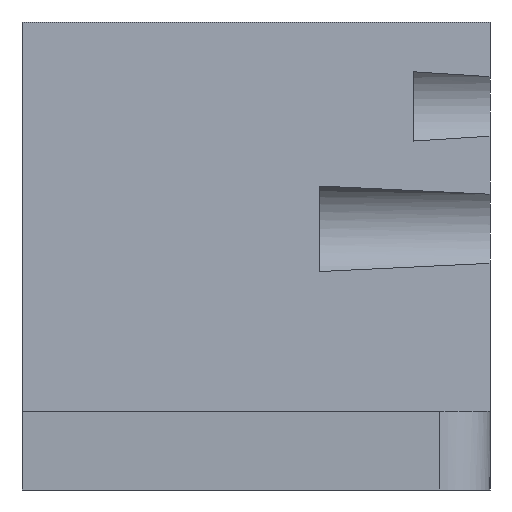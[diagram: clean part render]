
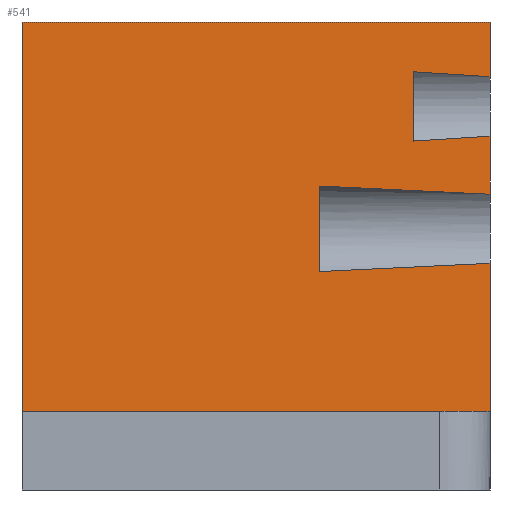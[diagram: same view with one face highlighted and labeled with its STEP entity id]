
A CAD part, front view. The second image highlights one B-rep face of the part: STEP entity #541.
In plain terms, the highlighted planar face has unit normal (0.057, -0.998, 0).
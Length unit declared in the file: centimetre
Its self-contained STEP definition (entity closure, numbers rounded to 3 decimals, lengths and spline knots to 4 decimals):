
#28 = EDGE_CURVE ( 'NONE', #308, #1092, #604, .T. ) ;
#34 = EDGE_CURVE ( 'NONE', #401, #933, #79, .T. ) ;
#79 = LINE ( 'NONE', #93, #555 ) ;
#93 = CARTESIAN_POINT ( 'NONE',  ( 1000., 276.6936, 1000. ) ) ;
#98 = ORIENTED_EDGE ( 'NONE', *, *, #907, .F. ) ;
#101 = CARTESIAN_POINT ( 'NONE',  ( 1000., 276.6936, 755.9561 ) ) ;
#109 = EDGE_CURVE ( 'NONE', #383, #900, #618, .T. ) ;
#118 = LINE ( 'NONE', #878, #271 ) ;
#120 = EDGE_CURVE ( 'NONE', #383, #1080, #118, .T. ) ;
#122 = DIRECTION ( 'NONE',  ( 0., 0., 1. ) ) ;
#140 = EDGE_CURVE ( 'NONE', #308, #901, #442, .T. ) ;
#166 =( BOUNDED_CURVE ( )  B_SPLINE_CURVE ( 3, ( #1023, #259, #940, #605 ),
 .UNSPECIFIED., .F., .T. ) 
 B_SPLINE_CURVE_WITH_KNOTS ( ( 4, 4 ),
 ( 0.6637, 0.7985 ),
 .UNSPECIFIED. ) 
 CURVE ( )  GEOMETRIC_REPRESENTATION_ITEM ( )  RATIONAL_B_SPLINE_CURVE ( ( 1., 0.998, 0.998, 1. ) ) 
 REPRESENTATION_ITEM ( '' )  );
#169 = DIRECTION ( 'NONE',  ( 0., 0., 1. ) ) ;
#176 = CARTESIAN_POINT ( 'NONE',  ( 1000., 276.6936, 883.2174 ) ) ;
#191 = DIRECTION ( 'NONE',  ( 0., 0., -1. ) ) ;
#202 = DIRECTION ( 'NONE',  ( -0.998, -0.057, 0. ) ) ;
#231 = VECTOR ( 'NONE', #202, 100. ) ;
#234 = CARTESIAN_POINT ( 'NONE',  ( 634.9686, 255.9766, 649.5723 ) ) ;
#236 = EDGE_CURVE ( 'NONE', #955, #978, #590, .T. ) ;
#241 = CARTESIAN_POINT ( 'NONE',  ( 836.3203, 267.4042, 893.5742 ) ) ;
#250 = CARTESIAN_POINT ( 'NONE',  ( 634.9686, 255.9766, 466.7921 ) ) ;
#259 = CARTESIAN_POINT ( 'NONE',  ( 949.5843, 273.8323, 752.2976 ) ) ;
#271 = VECTOR ( 'NONE', #371, 100. ) ;
#278 = ORIENTED_EDGE ( 'NONE', *, *, #717, .T. ) ;
#308 = VERTEX_POINT ( 'NONE', #241 ) ;
#343 = CARTESIAN_POINT ( 'NONE',  ( 0., 219.9397, 168.4904 ) ) ;
#345 = EDGE_CURVE ( 'NONE', #900, #933, #583, .T. ) ;
#347 = CARTESIAN_POINT ( 'NONE',  ( 1000., 276.6936, 632.0255 ) ) ;
#371 = DIRECTION ( 'NONE',  ( 0., 0., 1. ) ) ;
#376 = VECTOR ( 'NONE', #122, 100. ) ;
#383 = VERTEX_POINT ( 'NONE', #932 ) ;
#401 = VERTEX_POINT ( 'NONE', #495 ) ;
#414 = VERTEX_POINT ( 'NONE', #840 ) ;
#422 = DIRECTION ( 'NONE',  ( -0.998, -0.057, 0. ) ) ;
#441 = PLANE ( 'NONE',  #910 ) ;
#442 =( BOUNDED_CURVE ( )  B_SPLINE_CURVE ( 3, ( #642, #1061, #547, #893 ),
 .UNSPECIFIED., .F., .T. ) 
 B_SPLINE_CURVE_WITH_KNOTS ( ( 4, 4 ),
 ( 5.4847, 5.6195 ),
 .UNSPECIFIED. ) 
 CURVE ( )  GEOMETRIC_REPRESENTATION_ITEM ( )  RATIONAL_B_SPLINE_CURVE ( ( 1., 0.998, 0.998, 1. ) ) 
 REPRESENTATION_ITEM ( '' )  );
#464 = VECTOR ( 'NONE', #191, 100. ) ;
#467 = LINE ( 'NONE', #617, #376 ) ;
#484 = ORIENTED_EDGE ( 'NONE', *, *, #1102, .T. ) ;
#489 = ORIENTED_EDGE ( 'NONE', *, *, #140, .T. ) ;
#495 = CARTESIAN_POINT ( 'NONE',  ( 1000., 276.6936, 1000. ) ) ;
#504 = CARTESIAN_POINT ( 'NONE',  ( 769.2168, 263.5958, 471.7623 ) ) ;
#510 = ORIENTED_EDGE ( 'NONE', *, *, #236, .F. ) ;
#527 = DIRECTION ( 'NONE',  ( -0.998, -0.057, 0. ) ) ;
#530 = CARTESIAN_POINT ( 'NONE',  ( 634.9686, 255.9766, 649.5723 ) ) ;
#541 = ADVANCED_FACE ( 'NONE', ( #607 ), #441, .F. ) ;
#547 = CARTESIAN_POINT ( 'NONE',  ( 949.5843, 273.8323, 886.8759 ) ) ;
#548 = EDGE_CURVE ( 'NONE', #414, #978, #876, .T. ) ;
#555 = VECTOR ( 'NONE', #422, 100. ) ;
#583 = LINE ( 'NONE', #678, #944 ) ;
#590 =( BOUNDED_CURVE ( )  B_SPLINE_CURVE ( 3, ( #635, #1037, #708, #530 ),
 .UNSPECIFIED., .F., .T. ) 
 B_SPLINE_CURVE_WITH_KNOTS ( ( 4, 4 ),
 ( 0.7433, 0.9928 ),
 .UNSPECIFIED. ) 
 CURVE ( )  GEOMETRIC_REPRESENTATION_ITEM ( )  RATIONAL_B_SPLINE_CURVE ( ( 1., 0.995, 0.995, 1. ) ) 
 REPRESENTATION_ITEM ( '' )  );
#604 = LINE ( 'NONE', #939, #464 ) ;
#605 = CARTESIAN_POINT ( 'NONE',  ( 836.3203, 267.4042, 745.5993 ) ) ;
#607 = FACE_OUTER_BOUND ( 'NONE', #773, .T. ) ;
#608 = CARTESIAN_POINT ( 'NONE',  ( 1000., 276.6936, 484.339 ) ) ;
#617 = CARTESIAN_POINT ( 'NONE',  ( 1000., 276.6936, 168.4904 ) ) ;
#618 = LINE ( 'NONE', #961, #231 ) ;
#635 = CARTESIAN_POINT ( 'NONE',  ( 1000., 276.6936, 632.0255 ) ) ;
#642 = CARTESIAN_POINT ( 'NONE',  ( 836.3203, 267.4042, 893.5742 ) ) ;
#658 = CARTESIAN_POINT ( 'NONE',  ( 634.9686, 255.9766, 558.1822 ) ) ;
#662 = DIRECTION ( 'NONE',  ( 0., 0., 1. ) ) ;
#668 =( BOUNDED_CURVE ( )  B_SPLINE_CURVE ( 3, ( #250, #504, #686, #839 ),
 .UNSPECIFIED., .F., .T. ) 
 B_SPLINE_CURVE_WITH_KNOTS ( ( 4, 4 ),
 ( 5.2904, 5.5399 ),
 .UNSPECIFIED. ) 
 CURVE ( )  GEOMETRIC_REPRESENTATION_ITEM ( )  RATIONAL_B_SPLINE_CURVE ( ( 1., 0.995, 0.995, 1. ) ) 
 REPRESENTATION_ITEM ( '' )  );
#678 = CARTESIAN_POINT ( 'NONE',  ( 0., 219.9397, 168.4904 ) ) ;
#686 = CARTESIAN_POINT ( 'NONE',  ( 891.5274, 270.5374, 477.6417 ) ) ;
#691 = ORIENTED_EDGE ( 'NONE', *, *, #120, .T. ) ;
#708 = CARTESIAN_POINT ( 'NONE',  ( 769.2168, 263.5958, 644.6022 ) ) ;
#717 = EDGE_CURVE ( 'NONE', #901, #401, #1011, .T. ) ;
#731 = VECTOR ( 'NONE', #848, 100. ) ;
#741 = ORIENTED_EDGE ( 'NONE', *, *, #34, .T. ) ;
#769 = ORIENTED_EDGE ( 'NONE', *, *, #894, .T. ) ;
#773 = EDGE_LOOP ( 'NONE', ( #484, #769, #993, #489, #278, #741, #917, #1067, #691, #98, #1007, #510 ) ) ;
#788 = CARTESIAN_POINT ( 'NONE',  ( 1000., 276.6936, 168.4904 ) ) ;
#839 = CARTESIAN_POINT ( 'NONE',  ( 1000., 276.6936, 484.339 ) ) ;
#840 = CARTESIAN_POINT ( 'NONE',  ( 634.9686, 255.9766, 466.7921 ) ) ;
#848 = DIRECTION ( 'NONE',  ( 0., 0., 1. ) ) ;
#850 = CARTESIAN_POINT ( 'NONE',  ( 0., 219.9397, 1000. ) ) ;
#876 = LINE ( 'NONE', #658, #898 ) ;
#878 = CARTESIAN_POINT ( 'NONE',  ( 1000., 276.6936, 168.4904 ) ) ;
#886 = VERTEX_POINT ( 'NONE', #101 ) ;
#893 = CARTESIAN_POINT ( 'NONE',  ( 1000., 276.6936, 883.2174 ) ) ;
#894 = EDGE_CURVE ( 'NONE', #886, #1092, #166, .T. ) ;
#898 = VECTOR ( 'NONE', #662, 100. ) ;
#900 = VERTEX_POINT ( 'NONE', #343 ) ;
#901 = VERTEX_POINT ( 'NONE', #176 ) ;
#907 = EDGE_CURVE ( 'NONE', #414, #1080, #668, .T. ) ;
#910 = AXIS2_PLACEMENT_3D ( 'NONE', #788, #948, #527 ) ;
#917 = ORIENTED_EDGE ( 'NONE', *, *, #345, .F. ) ;
#932 = CARTESIAN_POINT ( 'NONE',  ( 1000., 276.6936, 168.4904 ) ) ;
#933 = VERTEX_POINT ( 'NONE', #850 ) ;
#939 = CARTESIAN_POINT ( 'NONE',  ( 836.3203, 267.4042, 168.4904 ) ) ;
#940 = CARTESIAN_POINT ( 'NONE',  ( 894.9417, 270.7312, 748.8401 ) ) ;
#943 = CARTESIAN_POINT ( 'NONE',  ( 836.3203, 267.4042, 745.5993 ) ) ;
#944 = VECTOR ( 'NONE', #169, 100. ) ;
#948 = DIRECTION ( 'NONE',  ( -0.057, 0.998, 0. ) ) ;
#955 = VERTEX_POINT ( 'NONE', #347 ) ;
#961 = CARTESIAN_POINT ( 'NONE',  ( 1000., 276.6936, 168.4904 ) ) ;
#978 = VERTEX_POINT ( 'NONE', #234 ) ;
#993 = ORIENTED_EDGE ( 'NONE', *, *, #28, .F. ) ;
#1006 = CARTESIAN_POINT ( 'NONE',  ( 1000., 276.6936, 168.4904 ) ) ;
#1007 = ORIENTED_EDGE ( 'NONE', *, *, #548, .T. ) ;
#1011 = LINE ( 'NONE', #1006, #731 ) ;
#1023 = CARTESIAN_POINT ( 'NONE',  ( 1000., 276.6936, 755.9561 ) ) ;
#1037 = CARTESIAN_POINT ( 'NONE',  ( 891.5274, 270.5374, 638.7228 ) ) ;
#1061 = CARTESIAN_POINT ( 'NONE',  ( 894.9417, 270.7312, 890.3334 ) ) ;
#1067 = ORIENTED_EDGE ( 'NONE', *, *, #109, .F. ) ;
#1080 = VERTEX_POINT ( 'NONE', #608 ) ;
#1092 = VERTEX_POINT ( 'NONE', #943 ) ;
#1102 = EDGE_CURVE ( 'NONE', #955, #886, #467, .T. ) ;
